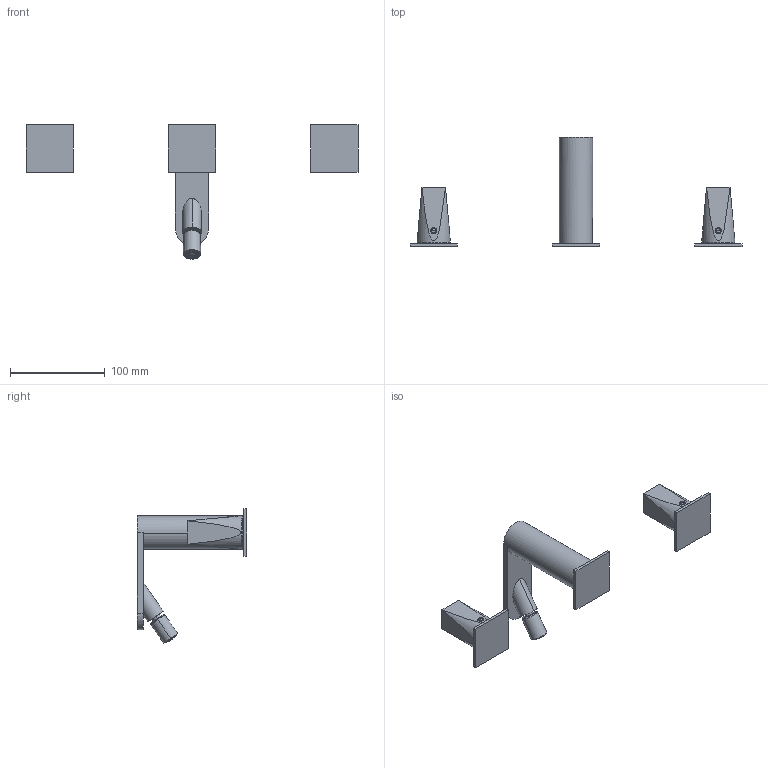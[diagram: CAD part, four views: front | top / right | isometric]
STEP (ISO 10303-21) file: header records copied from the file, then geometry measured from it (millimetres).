
FILE_DESCRIPTION((''),'2;1');
FILE_NAME('49104_SW0001','2023-09-19T15:49:55',('carloff'),(''),'CREO PARAMETRIC BY PTC INC, 2022014','CREO PARAMETRIC BY PTC INC, 2022014','');
FILE_SCHEMA(('CONFIG_CONTROL_DESIGN'));
Length unit declared in the file: millimetre
Products named in the file (1): 49104_SW0001
Bounding box: 350 x 115 x 141.71 mm (x, y, z)
Volume: 248827.4 mm3; surface area: 57925.9 mm2
Topology: 5 solids, 5 shells, 297 faces, 792 edges, 514 vertices
Faces by surface type: plane 116, torus 96, cylinder 55, cone 20, sphere 10
Entity records: 11374 total; most frequent: CARTESIAN_POINT 4101, ORIENTED_EDGE 1568, DIRECTION 1478, EDGE_CURVE 784, AXIS2_PLACEMENT_3D 617, VERTEX_POINT 514, CIRCLE 320, EDGE_LOOP 318
